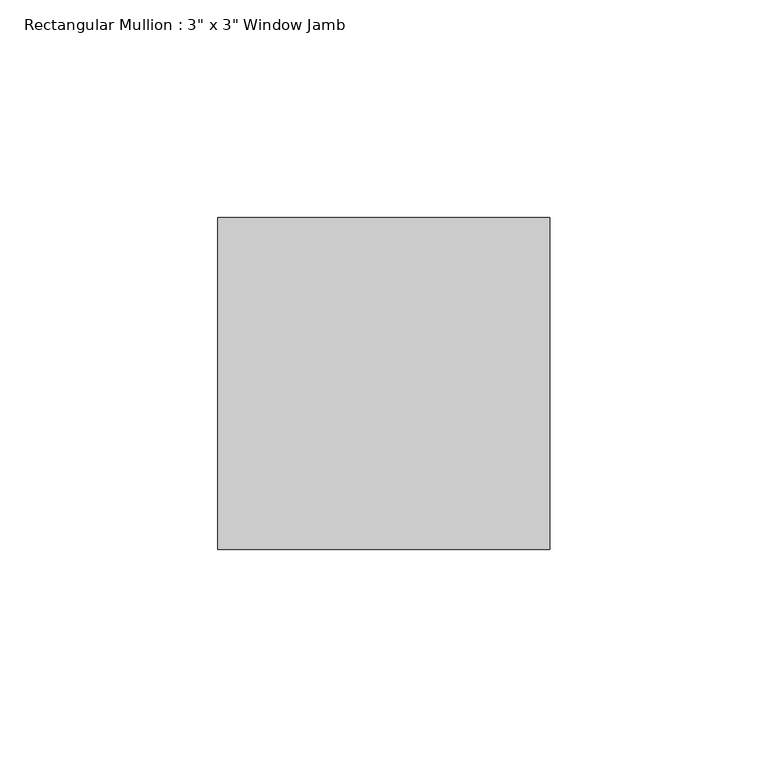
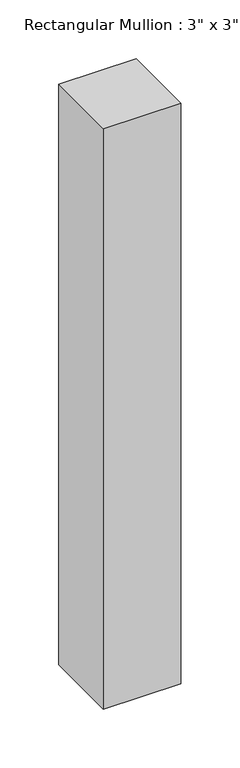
"""IFC4 building model written with IfcOpenShell, lengths in millimetres: member geometry."""

from ifc_helpers import new_model, si_unit, frame, origin, place, context, project, spatial, polyline, outline, extrude, source, transform, mapped, element, save


def member_8e47d4cd(model_context):
    return source(origin(), model_context, "Body", "SweptSolid", [
        extrude(outline(polyline([(0.0, 50.8), (0.0, -25.4), (-76.2, -25.4), (-76.2, 50.8), (0.0, 50.8)])), frame((0.0, 0.0, -603.9314929), z_axis=(0.0, 0.0, 1.0), x_axis=(1.0, 0.0, 0.0)), (0.0, 0.0, 1.0), 603.9314929),
    ])


if __name__ == "__main__":
    model = new_model("IFC4")
    model_context = context("Model", 3, world=origin())
    ifc_project = project(units=[si_unit("LENGTHUNIT", "METRE", prefix="MILLI")], contexts=[model_context])
    site = spatial("IfcSite", under=ifc_project)
    building = spatial("IfcBuilding", under=site)
    placement = place(None, origin())
    member_shape = member_8e47d4cd(model_context)
    element("IfcMember", 1, ObjectType="Rectangular Mullion : 3\" x 3\" Window Jamb", at=placement, inside=building, context=model_context, shape_type="MappedRepresentation", body=[
        mapped(member_shape, transform((0.0, 0.0, 0.0), x_axis=(1.0, 0.0, 0.0), y_axis=(0.0, 1.0, 0.0), z_axis=(0.0, 0.0, 1.0))),
    ])
    save(model, "model.ifc")
